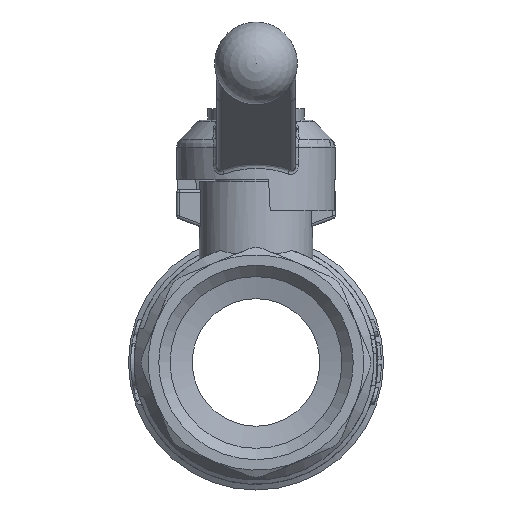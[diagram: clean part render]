
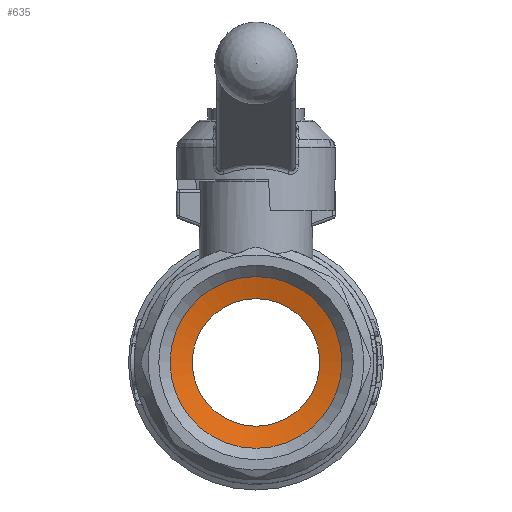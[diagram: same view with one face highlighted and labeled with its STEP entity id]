
A CAD part, front view. The second image highlights one B-rep face of the part: STEP entity #635.
In plain terms, the highlighted conical face has half-angle 75.44 degrees and reference radius 13.198 mm.
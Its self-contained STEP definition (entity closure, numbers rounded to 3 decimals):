
#635=ADVANCED_FACE('',(#7171,#7173),#7175,.F.);
#7171=FACE_OUTER_BOUND('',#7172,.T.);
#7172=EDGE_LOOP('',(#10204));
#7173=FACE_OUTER_BOUND('',#7174,.T.);
#7174=EDGE_LOOP('',(#10205));
#7175=CONICAL_SURFACE('',#7176,13.198,1.317);
#7176=AXIS2_PLACEMENT_3D('',#7177,#7178,#7179);
#7177=CARTESIAN_POINT('',(0.,14.506,0.));
#7178=DIRECTION('',(0.,-1.,0.));
#7179=DIRECTION('',(0.,0.,-1.));
#10204=ORIENTED_EDGE('',*,*,#11703,.F.);
#10205=ORIENTED_EDGE('',*,*,#11700,.T.);
#11700=EDGE_CURVE('',#14129,#14129,#14130,.T.);
#11703=EDGE_CURVE('',#14135,#14135,#14136,.T.);
#14129=VERTEX_POINT('',#26902);
#14130=CIRCLE('',#26903,15.146);
#14135=VERTEX_POINT('',#26917);
#14136=CIRCLE('',#26918,11.25);
#26902=CARTESIAN_POINT('',(0.,14.,-15.146));
#26903=AXIS2_PLACEMENT_3D('',#26904,#26905,#26906);
#26904=CARTESIAN_POINT('',(0.,14.,0.));
#26905=DIRECTION('',(0.,-1.,0.));
#26906=DIRECTION('',(0.,0.,-1.));
#26917=CARTESIAN_POINT('',(0.,15.012,-11.25));
#26918=AXIS2_PLACEMENT_3D('',#26919,#26920,#26921);
#26919=CARTESIAN_POINT('',(0.,15.012,0.));
#26920=DIRECTION('',(0.,-1.,0.));
#26921=DIRECTION('',(0.,0.,-1.));
